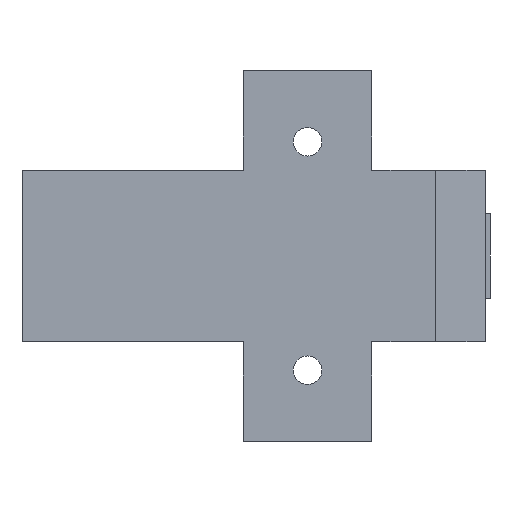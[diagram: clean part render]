
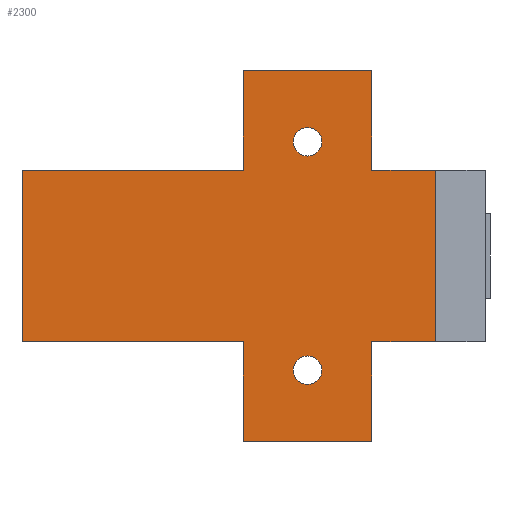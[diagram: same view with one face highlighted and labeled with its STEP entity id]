
A CAD part, left-side view. The second image highlights one B-rep face of the part: STEP entity #2300.
In plain terms, the highlighted planar face has unit normal (-1, 0, 0).
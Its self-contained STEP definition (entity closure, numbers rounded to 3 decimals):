
#45 = VECTOR ( 'NONE', #1499, 1000. ) ;
#49 = CIRCLE ( 'NONE', #73, 2. ) ;
#73 = AXIS2_PLACEMENT_3D ( 'NONE', #1354, #1353, #1352 ) ;
#114 = VECTOR ( 'NONE', #1520, 1000. ) ;
#118 = AXIS2_PLACEMENT_3D ( 'NONE', #1199, #1198, #1197 ) ;
#136 = CIRCLE ( 'NONE', #410, 2. ) ;
#137 = VECTOR ( 'NONE', #1476, 1000. ) ;
#158 = VECTOR ( 'NONE', #1515, 1000. ) ;
#179 = VECTOR ( 'NONE', #1528, 1000. ) ;
#202 = VECTOR ( 'NONE', #1517, 1000. ) ;
#225 = VECTOR ( 'NONE', #1505, 1000. ) ;
#269 = VECTOR ( 'NONE', #1508, 1000. ) ;
#273 = CIRCLE ( 'NONE', #118, 2. ) ;
#291 = AXIS2_PLACEMENT_3D ( 'NONE', #1536, #1537, #1538 ) ;
#292 = VECTOR ( 'NONE', #1487, 1000. ) ;
#304 = AXIS2_PLACEMENT_3D ( 'NONE', #770, #765, #774 ) ;
#315 = VECTOR ( 'NONE', #1512, 1000. ) ;
#339 = VECTOR ( 'NONE', #1523, 1000. ) ;
#361 = VECTOR ( 'NONE', #1525, 1000. ) ;
#410 = AXIS2_PLACEMENT_3D ( 'NONE', #1531, #1532, #1533 ) ;
#417 = CIRCLE ( 'NONE', #291, 2. ) ;
#763 = FACE_BOUND ( 'NONE', #3253, .T. ) ;
#765 = DIRECTION ( 'NONE',  ( 1., 0., 0. ) ) ;
#769 = FACE_OUTER_BOUND ( 'NONE', #3247, .T. ) ;
#770 = CARTESIAN_POINT ( 'NONE',  ( 0., -5.007, -12. ) ) ;
#772 = FACE_BOUND ( 'NONE', #3251, .T. ) ;
#773 = PLANE ( 'NONE',  #304 ) ;
#774 = DIRECTION ( 'NONE',  ( 0., 0., -1. ) ) ;
#877 = CARTESIAN_POINT ( 'NONE',  ( 0., 9., 12. ) ) ;
#883 = CARTESIAN_POINT ( 'NONE',  ( 0., -9., 12. ) ) ;
#886 = CARTESIAN_POINT ( 'NONE',  ( 0., 9., 26. ) ) ;
#887 = CARTESIAN_POINT ( 'NONE',  ( 0., -9., 26. ) ) ;
#889 = CARTESIAN_POINT ( 'NONE',  ( 0., 9., -26. ) ) ;
#890 = CARTESIAN_POINT ( 'NONE',  ( 0., -17.9, 12. ) ) ;
#891 = CARTESIAN_POINT ( 'NONE',  ( 0., 40., -12. ) ) ;
#892 = CARTESIAN_POINT ( 'NONE',  ( 0., -17.9, -12. ) ) ;
#893 = CARTESIAN_POINT ( 'NONE',  ( 0., 9., -12. ) ) ;
#895 = CARTESIAN_POINT ( 'NONE',  ( 0., -9., -12. ) ) ;
#896 = CARTESIAN_POINT ( 'NONE',  ( 0., -9., -26. ) ) ;
#942 = CARTESIAN_POINT ( 'NONE',  ( 0., 0., -18. ) ) ;
#943 = CARTESIAN_POINT ( 'NONE',  ( 0., 0., -14. ) ) ;
#945 = CARTESIAN_POINT ( 'NONE',  ( 0., 0., 14. ) ) ;
#948 = CARTESIAN_POINT ( 'NONE',  ( 0., 0., 18. ) ) ;
#1047 = CARTESIAN_POINT ( 'NONE',  ( 0., 40., 12. ) ) ;
#1197 = DIRECTION ( 'NONE',  ( 0., 0., 1. ) ) ;
#1198 = DIRECTION ( 'NONE',  ( -1., 0., 0. ) ) ;
#1199 = CARTESIAN_POINT ( 'NONE',  ( 0., 0., -16. ) ) ;
#1323 = EDGE_CURVE ( 'NONE', #2868, #2871, #49, .T. ) ;
#1327 = EDGE_CURVE ( 'NONE', #2861, #2862, #273, .T. ) ;
#1352 = DIRECTION ( 'NONE',  ( 0., 0., -1. ) ) ;
#1353 = DIRECTION ( 'NONE',  ( 1., 0., 0. ) ) ;
#1354 = CARTESIAN_POINT ( 'NONE',  ( 0., 0., 16. ) ) ;
#1473 = LINE ( 'NONE', #1475, #137 ) ;
#1474 = LINE ( 'NONE', #1498, #45 ) ;
#1475 = CARTESIAN_POINT ( 'NONE',  ( 0., -9., -26. ) ) ;
#1476 = DIRECTION ( 'NONE',  ( 0., 0., 1. ) ) ;
#1485 = LINE ( 'NONE', #1486, #292 ) ;
#1486 = CARTESIAN_POINT ( 'NONE',  ( 0., -5.007, -12. ) ) ;
#1487 = DIRECTION ( 'NONE',  ( 0., 1., 0. ) ) ;
#1492 = LINE ( 'NONE', #1504, #225 ) ;
#1496 = LINE ( 'NONE', #1513, #158 ) ;
#1498 = CARTESIAN_POINT ( 'NONE',  ( 0., -5.007, 12. ) ) ;
#1499 = DIRECTION ( 'NONE',  ( 0., 1., 0. ) ) ;
#1501 = LINE ( 'NONE', #1516, #202 ) ;
#1504 = CARTESIAN_POINT ( 'NONE',  ( 0., 9., -26. ) ) ;
#1505 = DIRECTION ( 'NONE',  ( 0., 0., 1. ) ) ;
#1506 = LINE ( 'NONE', #1507, #269 ) ;
#1507 = CARTESIAN_POINT ( 'NONE',  ( 0., 40., -12. ) ) ;
#1508 = DIRECTION ( 'NONE',  ( 0., 0., 1. ) ) ;
#1509 = LINE ( 'NONE', #1511, #315 ) ;
#1510 = LINE ( 'NONE', #1524, #361 ) ;
#1511 = CARTESIAN_POINT ( 'NONE',  ( 0., 9., -26. ) ) ;
#1512 = DIRECTION ( 'NONE',  ( 0., 0., 1. ) ) ;
#1513 = CARTESIAN_POINT ( 'NONE',  ( 0., -9., -26. ) ) ;
#1515 = DIRECTION ( 'NONE',  ( 0., 1., 0. ) ) ;
#1516 = CARTESIAN_POINT ( 'NONE',  ( 0., -9., -26. ) ) ;
#1517 = DIRECTION ( 'NONE',  ( 0., 0., 1. ) ) ;
#1518 = LINE ( 'NONE', #1519, #114 ) ;
#1519 = CARTESIAN_POINT ( 'NONE',  ( 0., -9., -12. ) ) ;
#1520 = DIRECTION ( 'NONE',  ( 0., 1., 0. ) ) ;
#1521 = LINE ( 'NONE', #1522, #339 ) ;
#1522 = CARTESIAN_POINT ( 'NONE',  ( 0., -17.9, 38.015 ) ) ;
#1523 = DIRECTION ( 'NONE',  ( 0., 0., -1. ) ) ;
#1524 = CARTESIAN_POINT ( 'NONE',  ( 0., -9., 12. ) ) ;
#1525 = DIRECTION ( 'NONE',  ( 0., -1., 0. ) ) ;
#1526 = LINE ( 'NONE', #1527, #179 ) ;
#1527 = CARTESIAN_POINT ( 'NONE',  ( 0., -9., 26. ) ) ;
#1528 = DIRECTION ( 'NONE',  ( 0., 1., 0. ) ) ;
#1531 = CARTESIAN_POINT ( 'NONE',  ( 0., 0., 16. ) ) ;
#1532 = DIRECTION ( 'NONE',  ( 1., 0., 0. ) ) ;
#1533 = DIRECTION ( 'NONE',  ( 0., 0., -1. ) ) ;
#1536 = CARTESIAN_POINT ( 'NONE',  ( 0., 0., -16. ) ) ;
#1537 = DIRECTION ( 'NONE',  ( -1., 0., 0. ) ) ;
#1538 = DIRECTION ( 'NONE',  ( 0., 0., 1. ) ) ;
#2107 = EDGE_CURVE ( 'NONE', #2628, #2648, #1473, .T. ) ;
#2111 = EDGE_CURVE ( 'NONE', #2664, #2665, #1485, .T. ) ;
#2115 = EDGE_CURVE ( 'NONE', #2609, #3009, #1474, .T. ) ;
#2117 = EDGE_CURVE ( 'NONE', #2609, #2653, #1492, .T. ) ;
#2118 = EDGE_CURVE ( 'NONE', #2665, #3009, #1506, .T. ) ;
#2119 = EDGE_CURVE ( 'NONE', #2652, #2664, #1509, .T. ) ;
#2120 = EDGE_CURVE ( 'NONE', #2676, #2652, #1496, .T. ) ;
#2121 = EDGE_CURVE ( 'NONE', #2676, #2681, #1501, .T. ) ;
#2122 = EDGE_CURVE ( 'NONE', #2668, #2681, #1518, .T. ) ;
#2123 = EDGE_CURVE ( 'NONE', #2672, #2668, #1521, .T. ) ;
#2124 = EDGE_CURVE ( 'NONE', #2628, #2672, #1510, .T. ) ;
#2125 = EDGE_CURVE ( 'NONE', #2648, #2653, #1526, .T. ) ;
#2126 = EDGE_CURVE ( 'NONE', #2871, #2868, #136, .T. ) ;
#2127 = EDGE_CURVE ( 'NONE', #2862, #2861, #417, .T. ) ;
#2300 = ADVANCED_FACE ( 'NONE', ( #769, #763, #772 ), #773, .F. ) ;
#2497 = ORIENTED_EDGE ( 'NONE', *, *, #2117, .F. ) ;
#2498 = ORIENTED_EDGE ( 'NONE', *, *, #2115, .T. ) ;
#2499 = ORIENTED_EDGE ( 'NONE', *, *, #2118, .F. ) ;
#2500 = ORIENTED_EDGE ( 'NONE', *, *, #2111, .F. ) ;
#2501 = ORIENTED_EDGE ( 'NONE', *, *, #2119, .F. ) ;
#2502 = ORIENTED_EDGE ( 'NONE', *, *, #2120, .F. ) ;
#2503 = ORIENTED_EDGE ( 'NONE', *, *, #2121, .T. ) ;
#2504 = ORIENTED_EDGE ( 'NONE', *, *, #2122, .F. ) ;
#2505 = ORIENTED_EDGE ( 'NONE', *, *, #2123, .F. ) ;
#2506 = ORIENTED_EDGE ( 'NONE', *, *, #2124, .F. ) ;
#2507 = ORIENTED_EDGE ( 'NONE', *, *, #2107, .T. ) ;
#2508 = ORIENTED_EDGE ( 'NONE', *, *, #2125, .T. ) ;
#2509 = ORIENTED_EDGE ( 'NONE', *, *, #2126, .T. ) ;
#2510 = ORIENTED_EDGE ( 'NONE', *, *, #1323, .T. ) ;
#2511 = ORIENTED_EDGE ( 'NONE', *, *, #1327, .F. ) ;
#2512 = ORIENTED_EDGE ( 'NONE', *, *, #2127, .F. ) ;
#2609 = VERTEX_POINT ( 'NONE', #877 ) ;
#2628 = VERTEX_POINT ( 'NONE', #883 ) ;
#2648 = VERTEX_POINT ( 'NONE', #887 ) ;
#2652 = VERTEX_POINT ( 'NONE', #889 ) ;
#2653 = VERTEX_POINT ( 'NONE', #886 ) ;
#2664 = VERTEX_POINT ( 'NONE', #893 ) ;
#2665 = VERTEX_POINT ( 'NONE', #891 ) ;
#2668 = VERTEX_POINT ( 'NONE', #892 ) ;
#2672 = VERTEX_POINT ( 'NONE', #890 ) ;
#2676 = VERTEX_POINT ( 'NONE', #896 ) ;
#2681 = VERTEX_POINT ( 'NONE', #895 ) ;
#2861 = VERTEX_POINT ( 'NONE', #942 ) ;
#2862 = VERTEX_POINT ( 'NONE', #943 ) ;
#2868 = VERTEX_POINT ( 'NONE', #948 ) ;
#2871 = VERTEX_POINT ( 'NONE', #945 ) ;
#3009 = VERTEX_POINT ( 'NONE', #1047 ) ;
#3247 = EDGE_LOOP ( 'NONE', ( #2497, #2498, #2499, #2500, #2501, #2502, #2503, #2504, #2505, #2506, #2507, #2508 ) ) ;
#3251 = EDGE_LOOP ( 'NONE', ( #2511, #2512 ) ) ;
#3253 = EDGE_LOOP ( 'NONE', ( #2509, #2510 ) ) ;
